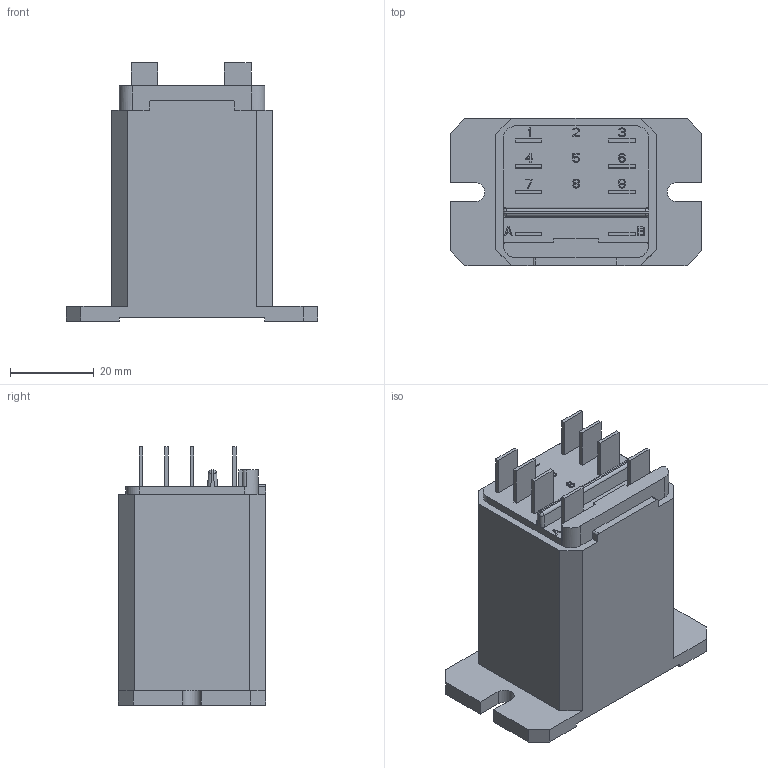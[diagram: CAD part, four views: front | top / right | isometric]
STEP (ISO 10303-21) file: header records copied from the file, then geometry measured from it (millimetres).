
FILE_DESCRIPTION((''),'2;1');
FILE_NAME('C-6-1393114-5','2009-02-02T',('workeradm'),('Tyco Electronics Corporation'),'PRO/ENGINEER BY PARAMETRIC TECHNOLOGY CORPORATION, 2005450','PRO/ENGINEER BY PARAMETRIC TECHNOLOGY CORPORATION, 2005450','');
FILE_SCHEMA(('CONFIG_CONTROL_DESIGN', 'GEOMETRIC_VALIDATION_PROPERTIES_MIM'));
Length unit declared in the file: millimetre
Products named in the file (1): C-6-1393114-5
Bounding box: 60.05 x 35.05 x 61.59 mm (x, y, z)
Volume: 70841.6 mm3; surface area: 13107.3 mm2
Topology: 1 solids, 1 shells, 516 faces, 1449 edges, 962 vertices
Faces by surface type: plane 494, cylinder 18, sphere 4
Entity records: 16428 total; most frequent: CARTESIAN_POINT 2944, ORIENTED_EDGE 2898, DIRECTION 2511, EDGE_CURVE 1449, VECTOR 1411, LINE 1411, VERTEX_POINT 962, AXIS2_PLACEMENT_3D 550
